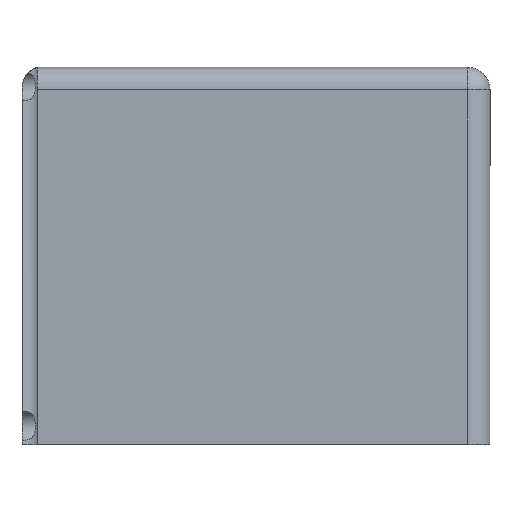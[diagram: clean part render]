
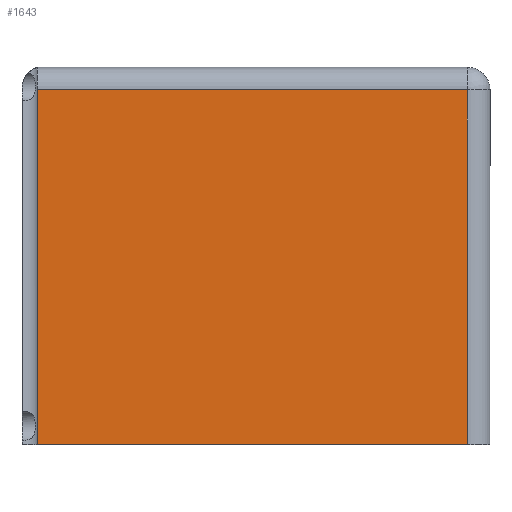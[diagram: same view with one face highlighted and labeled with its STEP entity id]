
A CAD part, left-side view. The second image highlights one B-rep face of the part: STEP entity #1643.
In plain terms, the highlighted planar face has unit normal (-1, 0, 0).
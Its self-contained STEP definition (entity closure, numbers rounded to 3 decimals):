
#92=PLANE('',#1763);
#238=FACE_OUTER_BOUND('',#343,.T.);
#343=EDGE_LOOP('',(#1499,#1500,#1501,#1502));
#474=LINE('',#2925,#621);
#477=LINE('',#2932,#624);
#495=LINE('',#2979,#642);
#498=LINE('',#2983,#645);
#621=VECTOR('',#2058,10.);
#624=VECTOR('',#2065,10.);
#642=VECTOR('',#2115,10.);
#645=VECTOR('',#2120,10.);
#822=VERTEX_POINT('',#2918);
#824=VERTEX_POINT('',#2923);
#825=VERTEX_POINT('',#2928);
#839=VERTEX_POINT('',#2978);
#1040=EDGE_CURVE('',#824,#822,#474,.T.);
#1044=EDGE_CURVE('',#822,#825,#477,.T.);
#1067=EDGE_CURVE('',#839,#825,#495,.T.);
#1070=EDGE_CURVE('',#824,#839,#498,.T.);
#1499=ORIENTED_EDGE('',*,*,#1040,.F.);
#1500=ORIENTED_EDGE('',*,*,#1070,.T.);
#1501=ORIENTED_EDGE('',*,*,#1067,.T.);
#1502=ORIENTED_EDGE('',*,*,#1044,.F.);
#1643=ADVANCED_FACE('',(#238),#92,.T.);
#1763=AXIS2_PLACEMENT_3D('',#2982,#2118,#2119);
#2058=DIRECTION('',(0.,-1.,0.));
#2065=DIRECTION('',(0.,0.,-1.));
#2115=DIRECTION('',(0.,-1.,0.));
#2118=DIRECTION('center_axis',(-1.,0.,0.));
#2119=DIRECTION('ref_axis',(0.,0.,-1.));
#2120=DIRECTION('',(0.,0.,-1.));
#2918=CARTESIAN_POINT('',(-35.,-5.786,48.081));
#2923=CARTESIAN_POINT('',(-35.,51.214,48.081));
#2925=CARTESIAN_POINT('',(-35.,51.214,48.081));
#2928=CARTESIAN_POINT('',(-35.,-5.786,1.081));
#2932=CARTESIAN_POINT('',(-35.,-5.786,38.581));
#2978=CARTESIAN_POINT('',(-35.,51.214,1.081));
#2979=CARTESIAN_POINT('',(-35.,51.214,1.081));
#2982=CARTESIAN_POINT('Origin',(-35.,51.214,51.081));
#2983=CARTESIAN_POINT('',(-35.,51.214,51.081));
